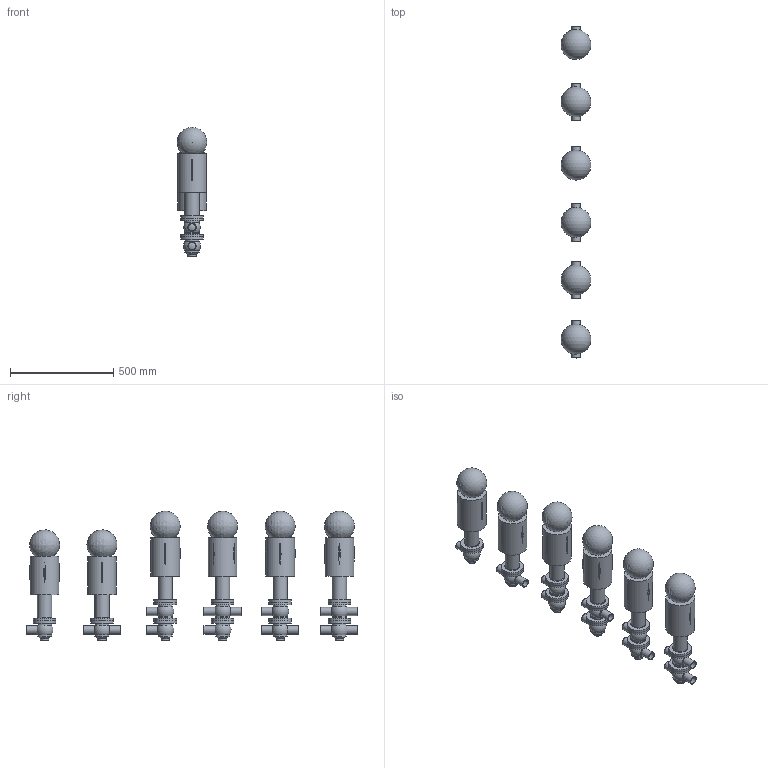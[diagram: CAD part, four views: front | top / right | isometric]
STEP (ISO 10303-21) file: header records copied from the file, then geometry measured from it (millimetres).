
FILE_DESCRIPTION(/* description */ (''),/* implementation_level */ '2;1');
FILE_NAME(/* name */ 'C:\Users\marz-m\Desktop\PDF\BBZQ 3D STEP\BBZQ-DN40-CIL.134.stp',/* time_stamp */ '2018-04-13T14:51:35+02:00',/* author */ ('marz-m'),/* organization */ (''),/* preprocessor_version */ 'ST-DEVELOPER v17',/* originating_system */ 'Autodesk Inventor 2018',/* authorisation */ '');
FILE_SCHEMA (('AUTOMOTIVE_DESIGN { 1 0 10303 214 3 1 1 }'));
Length unit declared in the file: millimetre
Products named in the file (8): BBZQ-CIL.134-DN40; COR-INF-L-BBZQ-DN40X2.5-SALD; COR-INF-T-BBZQ-DN40X2.5-SALD; assemblaggio dn40 per cil 108-156; CIL134; SAGOMA-GIOTTO-; CORPO-SUP-SUP-BBZQ-L-DN40-SALD; CORPO-SUP-SUP-BBZQ-T-DN40-SALD
Assembly tree (28 placements, depth 2):
  BBZQ-CIL.134-DN40
    COR-INF-L-BBZQ-DN40X2.5-SALD  x3
    COR-INF-T-BBZQ-DN40X2.5-SALD  x3
    assemblaggio dn40 per cil 108-156  x6
    CIL134  x6
    SAGOMA-GIOTTO-  x6
    CORPO-SUP-SUP-BBZQ-L-DN40-SALD  x2
    CORPO-SUP-SUP-BBZQ-T-DN40-SALD  x2
Bounding box: 144.75 x 1605.61 x 625.51 mm (x, y, z)
Volume: 34320162.7 mm3; surface area: 2024625.6 mm2
Topology: 28 solids, 28 shells, 416 faces, 1029 edges, 720 vertices
Faces by surface type: plane 154, cylinder 103, torus 74, cone 54, sphere 31
Full cylindrical faces by diameter (mm): 20 x12, 35 x18, 40 x21, 68 x20, 69 x6, 109 x20, 139 x6
Entity records: 4022 total; most frequent: CARTESIAN_POINT 872, DIRECTION 694, ORIENTED_EDGE 522, AXIS2_PLACEMENT_3D 328, EDGE_CURVE 261, VERTEX_POINT 186, CIRCLE 171, EDGE_LOOP 141
